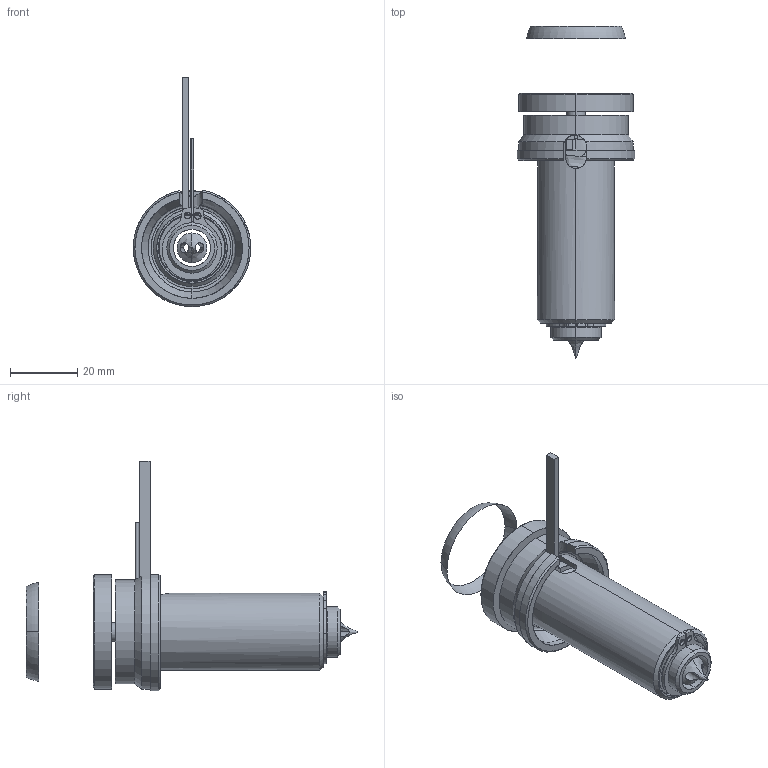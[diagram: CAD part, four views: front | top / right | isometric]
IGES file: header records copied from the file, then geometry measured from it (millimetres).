
Start section: SolidWorks IGES file using analytic representation for surfaces
Global section: file name: C:\Users\luca.EMPAD\Desktop\TEM\UGDL2601-M-A [Øf=0.3 ØC=5.5].IGS; native system: SolidWorks 2012; preprocessor: SolidWorks 2012; author: luca; date: 120330.144931; units: millimetre
Bounding box: 35 x 98.84 x 68.3 mm (x, y, z)
Surface area: 20777.9 mm2 (no closed solid volume)
Topology: 0 solids, 0 shells, 134 faces, 2198 edges, 2194 vertices
Faces by surface type: revolution 76, bspline 58
